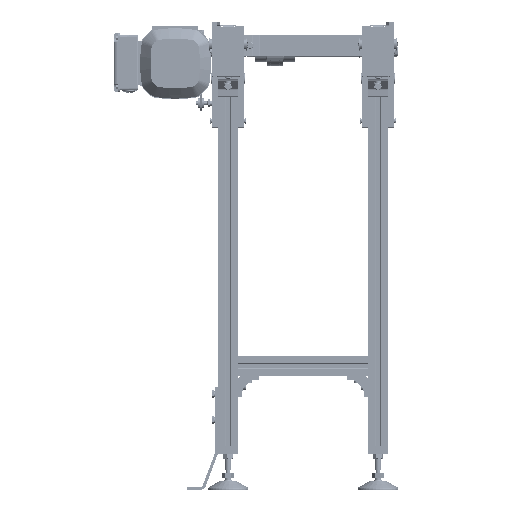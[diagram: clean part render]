
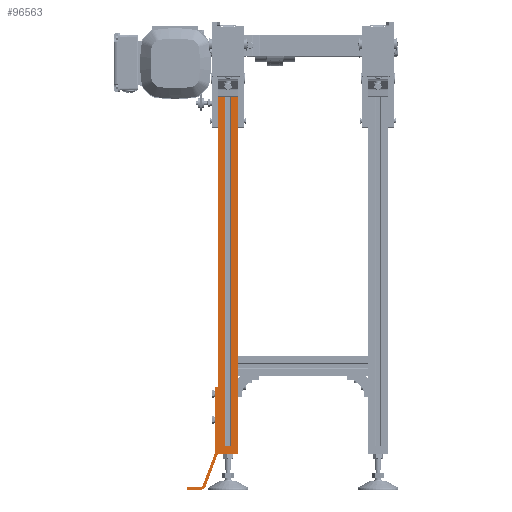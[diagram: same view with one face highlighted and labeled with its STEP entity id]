
A CAD part, left-side view. The second image highlights one B-rep face of the part: STEP entity #96563.
In plain terms, the highlighted planar face has unit normal (-1, 0, 0).
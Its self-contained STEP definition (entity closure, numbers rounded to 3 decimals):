
#5567=CIRCLE('',#103220,12.);
#5568=CIRCLE('',#103221,6.);
#5569=CIRCLE('',#103222,12.);
#5570=CIRCLE('',#103223,12.);
#9671=FACE_OUTER_BOUND('',#15325,.T.);
#15325=EDGE_LOOP('',(#68142,#68143,#68144,#68145,#68146,#68147,#68148,#68149,
#68150,#68151,#68152,#68153,#68154,#68155,#68156,#68157,#68158,#68159,#68160,
#68161,#68162,#68163,#68164,#68165));
#22550=LINE('',#146300,#31236);
#22713=LINE('',#146947,#31399);
#22714=LINE('',#146948,#31400);
#22740=LINE('',#147019,#31426);
#22741=LINE('',#147021,#31427);
#22742=LINE('',#147023,#31428);
#22743=LINE('',#147025,#31429);
#22744=LINE('',#147027,#31430);
#22745=LINE('',#147031,#31431);
#22746=LINE('',#147035,#31432);
#22747=LINE('',#147037,#31433);
#22748=LINE('',#147039,#31434);
#22749=LINE('',#147043,#31435);
#22750=LINE('',#147047,#31436);
#22751=LINE('',#147048,#31437);
#22752=LINE('',#147050,#31438);
#22753=LINE('',#147051,#31439);
#22754=LINE('',#147053,#31440);
#22755=LINE('',#147055,#31441);
#22756=LINE('',#147056,#31442);
#31236=VECTOR('',#117959,15.);
#31399=VECTOR('',#118338,13.45);
#31400=VECTOR('',#118339,13.45);
#31426=VECTOR('',#118419,675.);
#31427=VECTOR('',#118420,1.);
#31428=VECTOR('',#118421,115.);
#31429=VECTOR('',#118422,6.);
#31430=VECTOR('',#118423,128.703);
#31431=VECTOR('',#118426,62.015);
#31432=VECTOR('',#118429,25.951);
#31433=VECTOR('',#118430,6.);
#31434=VECTOR('',#118431,25.933);
#31435=VECTOR('',#118434,63.225);
#31436=VECTOR('',#118437,1.249);
#31437=VECTOR('',#118438,40.);
#31438=VECTOR('',#118439,1.);
#31439=VECTOR('',#118440,675.);
#31440=VECTOR('',#118441,675.);
#31441=VECTOR('',#118442,11.1);
#31442=VECTOR('',#118443,675.);
#40050=VERTEX_POINT('',#146297);
#40051=VERTEX_POINT('',#146299);
#40167=VERTEX_POINT('',#146727);
#40170=VERTEX_POINT('',#146732);
#40172=VERTEX_POINT('',#146738);
#40176=VERTEX_POINT('',#146747);
#40229=VERTEX_POINT('',#147018);
#40230=VERTEX_POINT('',#147020);
#40231=VERTEX_POINT('',#147022);
#40232=VERTEX_POINT('',#147024);
#40233=VERTEX_POINT('',#147026);
#40234=VERTEX_POINT('',#147028);
#40235=VERTEX_POINT('',#147030);
#40236=VERTEX_POINT('',#147032);
#40237=VERTEX_POINT('',#147034);
#40238=VERTEX_POINT('',#147036);
#40239=VERTEX_POINT('',#147038);
#40240=VERTEX_POINT('',#147040);
#40241=VERTEX_POINT('',#147042);
#40242=VERTEX_POINT('',#147044);
#40243=VERTEX_POINT('',#147046);
#40244=VERTEX_POINT('',#147049);
#40245=VERTEX_POINT('',#147052);
#40246=VERTEX_POINT('',#147054);
#50387=EDGE_CURVE('',#40050,#40051,#22550,.T.);
#50609=EDGE_CURVE('',#40167,#40172,#22713,.T.);
#50610=EDGE_CURVE('',#40176,#40170,#22714,.T.);
#50641=EDGE_CURVE('',#40229,#40172,#22740,.T.);
#50642=EDGE_CURVE('',#40229,#40230,#22741,.T.);
#50643=EDGE_CURVE('',#40231,#40230,#22742,.T.);
#50644=EDGE_CURVE('',#40232,#40231,#22743,.T.);
#50645=EDGE_CURVE('',#40233,#40232,#22744,.T.);
#50646=EDGE_CURVE('',#40234,#40233,#5567,.T.);
#50647=EDGE_CURVE('',#40235,#40234,#22745,.T.);
#50648=EDGE_CURVE('',#40236,#40235,#5568,.T.);
#50649=EDGE_CURVE('',#40237,#40236,#22746,.T.);
#50650=EDGE_CURVE('',#40238,#40237,#22747,.T.);
#50651=EDGE_CURVE('',#40239,#40238,#22748,.T.);
#50652=EDGE_CURVE('',#40240,#40239,#5569,.T.);
#50653=EDGE_CURVE('',#40241,#40240,#22749,.T.);
#50654=EDGE_CURVE('',#40242,#40241,#5570,.T.);
#50655=EDGE_CURVE('',#40242,#40243,#22750,.T.);
#50656=EDGE_CURVE('',#40243,#40051,#22751,.T.);
#50657=EDGE_CURVE('',#40050,#40244,#22752,.T.);
#50658=EDGE_CURVE('',#40244,#40176,#22753,.T.);
#50659=EDGE_CURVE('',#40245,#40170,#22754,.T.);
#50660=EDGE_CURVE('',#40245,#40246,#22755,.T.);
#50661=EDGE_CURVE('',#40246,#40167,#22756,.T.);
#68142=ORIENTED_EDGE('',*,*,#50609,.T.);
#68143=ORIENTED_EDGE('',*,*,#50641,.F.);
#68144=ORIENTED_EDGE('',*,*,#50642,.T.);
#68145=ORIENTED_EDGE('',*,*,#50643,.F.);
#68146=ORIENTED_EDGE('',*,*,#50644,.F.);
#68147=ORIENTED_EDGE('',*,*,#50645,.F.);
#68148=ORIENTED_EDGE('',*,*,#50646,.F.);
#68149=ORIENTED_EDGE('',*,*,#50647,.F.);
#68150=ORIENTED_EDGE('',*,*,#50648,.F.);
#68151=ORIENTED_EDGE('',*,*,#50649,.F.);
#68152=ORIENTED_EDGE('',*,*,#50650,.F.);
#68153=ORIENTED_EDGE('',*,*,#50651,.F.);
#68154=ORIENTED_EDGE('',*,*,#50652,.F.);
#68155=ORIENTED_EDGE('',*,*,#50653,.F.);
#68156=ORIENTED_EDGE('',*,*,#50654,.F.);
#68157=ORIENTED_EDGE('',*,*,#50655,.T.);
#68158=ORIENTED_EDGE('',*,*,#50656,.T.);
#68159=ORIENTED_EDGE('',*,*,#50387,.F.);
#68160=ORIENTED_EDGE('',*,*,#50657,.T.);
#68161=ORIENTED_EDGE('',*,*,#50658,.T.);
#68162=ORIENTED_EDGE('',*,*,#50610,.T.);
#68163=ORIENTED_EDGE('',*,*,#50659,.F.);
#68164=ORIENTED_EDGE('',*,*,#50660,.T.);
#68165=ORIENTED_EDGE('',*,*,#50661,.T.);
#87449=PLANE('',#103219);
#96563=ADVANCED_FACE('',(#9671),#87449,.T.);
#103219=AXIS2_PLACEMENT_3D('',#147017,#118417,#118418);
#103220=AXIS2_PLACEMENT_3D('',#147029,#118424,#118425);
#103221=AXIS2_PLACEMENT_3D('',#147033,#118427,#118428);
#103222=AXIS2_PLACEMENT_3D('',#147041,#118432,#118433);
#103223=AXIS2_PLACEMENT_3D('',#147045,#118435,#118436);
#117959=DIRECTION('',(0.,0.,-1.));
#118338=DIRECTION('',(0.,1.,0.));
#118339=DIRECTION('',(0.,1.,0.));
#118417=DIRECTION('center_axis',(-1.,0.,0.));
#118418=DIRECTION('ref_axis',(0.,-1.,0.));
#118419=DIRECTION('',(0.,0.,1.));
#118420=DIRECTION('',(0.,1.,0.));
#118421=DIRECTION('',(0.,0.,-1.));
#118422=DIRECTION('',(0.,-1.,0.));
#118423=DIRECTION('',(0.,0.,1.));
#118424=DIRECTION('center_axis',(-1.,0.,0.));
#118425=DIRECTION('ref_axis',(0.,1.,0.));
#118426=DIRECTION('',(0.,-0.353,0.936));
#118427=DIRECTION('center_axis',(-1.,0.,0.));
#118428=DIRECTION('ref_axis',(0.,0.977,0.214));
#118429=DIRECTION('',(0.,-1.,0.));
#118430=DIRECTION('',(0.,0.,1.));
#118431=DIRECTION('',(0.,1.,0.));
#118432=DIRECTION('center_axis',(1.,0.,0.));
#118433=DIRECTION('ref_axis',(0.,-0.977,
-0.212));
#118434=DIRECTION('',(0.,0.349,-0.937));
#118435=DIRECTION('center_axis',(1.,0.,0.));
#118436=DIRECTION('ref_axis',(0.,-1.,0.));
#118437=DIRECTION('',(0.,0.,-1.));
#118438=DIRECTION('',(0.,-1.,0.));
#118439=DIRECTION('',(0.,1.,0.));
#118440=DIRECTION('',(0.,0.,1.));
#118441=DIRECTION('',(0.,0.,1.));
#118442=DIRECTION('',(0.,1.,0.));
#118443=DIRECTION('',(0.,0.,1.));
#146297=CARTESIAN_POINT('',(203.,125.,-715.));
#146299=CARTESIAN_POINT('',(203.,125.,-730.));
#146300=CARTESIAN_POINT('',(203.,125.,-715.));
#146727=CARTESIAN_POINT('',(203.,150.55,-40.));
#146732=CARTESIAN_POINT('',(203.,139.45,-40.));
#146738=CARTESIAN_POINT('',(203.,164.,-40.));
#146747=CARTESIAN_POINT('',(203.,126.,-40.));
#146947=CARTESIAN_POINT('',(203.,154.5,-40.));
#146948=CARTESIAN_POINT('',(203.,154.5,-40.));
#147017=CARTESIAN_POINT('Origin',(203.,164.,-715.));
#147018=CARTESIAN_POINT('',(203.,164.,-715.));
#147019=CARTESIAN_POINT('',(203.,164.,-715.));
#147020=CARTESIAN_POINT('',(203.,165.,-715.));
#147021=CARTESIAN_POINT('',(203.,125.,-715.));
#147022=CARTESIAN_POINT('',(203.,165.,-600.));
#147023=CARTESIAN_POINT('',(203.,165.,-600.));
#147024=CARTESIAN_POINT('',(203.,171.,-600.));
#147025=CARTESIAN_POINT('',(203.,171.,-600.));
#147026=CARTESIAN_POINT('',(203.,171.,-728.703));
#147027=CARTESIAN_POINT('',(203.,171.,-728.703));
#147028=CARTESIAN_POINT('',(203.,171.277,-731.267));
#147029=CARTESIAN_POINT('Origin',(203.,183.,-728.703));
#147030=CARTESIAN_POINT('',(203.,193.188,-789.282));
#147031=CARTESIAN_POINT('',(203.,193.188,-789.282));
#147032=CARTESIAN_POINT('',(203.,199.049,-794.));
#147033=CARTESIAN_POINT('Origin',(203.,199.049,-788.));
#147034=CARTESIAN_POINT('',(203.,225.,-794.));
#147035=CARTESIAN_POINT('',(203.,225.,-794.));
#147036=CARTESIAN_POINT('',(203.,225.,-800.));
#147037=CARTESIAN_POINT('',(203.,225.,-800.));
#147038=CARTESIAN_POINT('',(203.,199.067,-800.));
#147039=CARTESIAN_POINT('',(203.,199.067,-800.));
#147040=CARTESIAN_POINT('',(203.,187.34,-790.543));
#147041=CARTESIAN_POINT('Origin',(203.,199.067,-788.));
#147042=CARTESIAN_POINT('',(203.,165.273,-731.294));
#147043=CARTESIAN_POINT('',(203.,165.273,-731.294));
#147044=CARTESIAN_POINT('',(203.,165.,-728.751));
#147045=CARTESIAN_POINT('Origin',(203.,177.,-728.751));
#147046=CARTESIAN_POINT('',(203.,165.,-730.));
#147047=CARTESIAN_POINT('',(203.,165.,-715.));
#147048=CARTESIAN_POINT('',(203.,125.,-730.));
#147049=CARTESIAN_POINT('',(203.,126.,-715.));
#147050=CARTESIAN_POINT('',(203.,125.,-715.));
#147051=CARTESIAN_POINT('',(203.,126.,-715.));
#147052=CARTESIAN_POINT('',(203.,139.45,-715.));
#147053=CARTESIAN_POINT('',(203.,139.45,-715.));
#147054=CARTESIAN_POINT('',(203.,150.55,-715.));
#147055=CARTESIAN_POINT('',(203.,125.,-715.));
#147056=CARTESIAN_POINT('',(203.,150.55,-715.));
